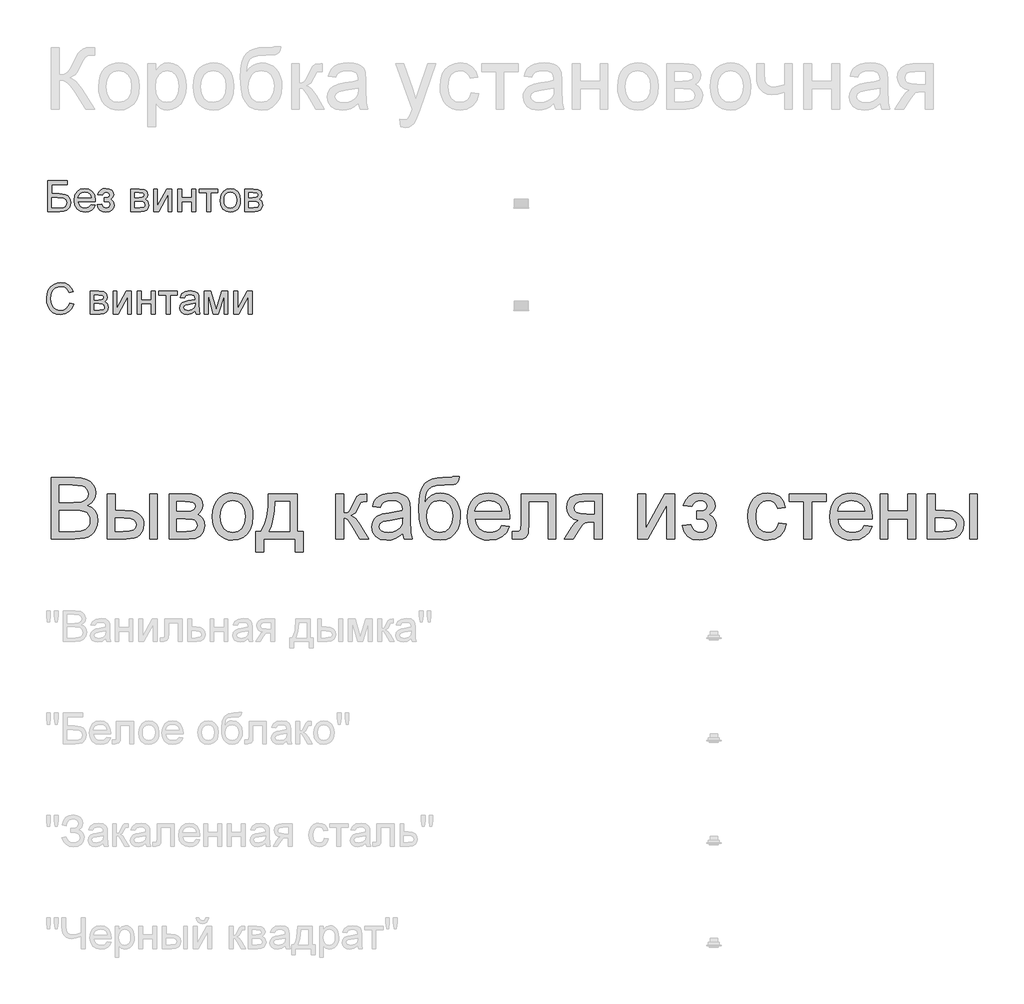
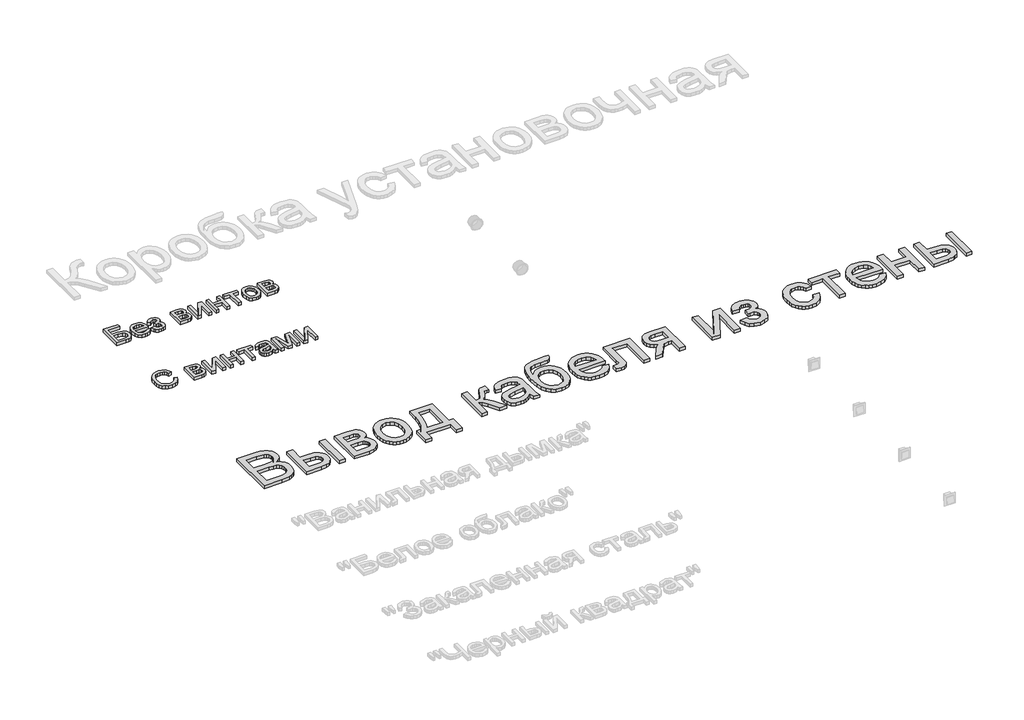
# One storey, part 100 of 168: 3 proxies.
"""IFC4 building model written with IfcOpenShell, lengths in millimetres."""

from ifc_helpers import new_model, si_unit, origin, origin_with_axes, place, context, project, spatial, polyline, outline, extrude, element, save

model = new_model("IFC4")

# Units and contexts
model_context = context("Model", 3, world=origin())
ifc_project = project(units=[si_unit("LENGTHUNIT", "METRE", prefix="MILLI")], contexts=[model_context])

# Site, building, storey
site = spatial("IfcSite", under=ifc_project)
building = spatial("IfcBuilding", under=site)
storey = spatial("IfcBuildingStorey", under=building, Name="Этаж 01", Elevation=0.0)

# Proxies
placement = place(None, origin())
element("IfcBuildingElementProxy", 1, Name="300 мм Arial 2", ObjectType="300 мм Arial 2", at=placement, inside=storey, context=model_context, shape_type="SweptSolid", body=[
    extrude(outline(polyline([(32899.0945017, -22448.4056816), (32899.0945017, -22147.0367511), (33014.0944134, -22147.0367511), (33045.7230679, -22149.2532401), (33070.4171468, -22155.9027072), (33089.3446755, -22167.1506992), (33103.6736792, -22183.162763), (33112.6959851, -22201.9983212), (33115.7034204, -22221.7167961), (33113.1742317, -22239.8625756), (33105.5866656, -22256.9231031), (33092.8855397, -22271.849915), (33075.0156718, -22283.5945477), (33096.3620245, -22294.7413722), (33112.1349651, -22311.7007322), (33121.8746409, -22333.3505876), (33125.1211995, -22358.5688983), (33122.9047105, -22379.5841573), (33116.2552434, -22399.072706), (33106.3316266, -22415.6457899), (33094.2926883, -22427.9146544), (33079.5498173, -22436.7990046), (33061.5144025, -22443.2185454), (33013.2114966, -22448.4056816), (32899.0945017, -22448.4056816)]), holes=[polyline([(32936.765618, -22269.4678791), (33005.5595511, -22269.4678791), (33045.7322649, -22266.2305176), (33059.7945542, -22260.6479083), (33069.902112, -22252.2877899), (33075.9997561, -22241.2789212), (33078.0323041, -22227.7500609), (33076.1377118, -22214.6166736), (33070.453935, -22203.1755436), (33061.238491, -22194.2452082), (33048.7488973, -22188.6442048), (33000.3356267, -22184.7078674), (32936.765618, -22184.7078674), (32936.765618, -22269.4678791)]), polyline([(32936.765618, -22410.7345653), (33014.020837, -22410.7345653), (33041.9798686, -22409.2630373), (33065.6346809, -22401.0592688), (33081.3064539, -22384.320638), (33085.9141759, -22372.4932319), (33087.4500832, -22358.9367803), (33085.6474614, -22343.1914309), (33080.2395961, -22329.6533735), (33070.7942259, -22319.0675691), (33056.8790894, -22312.1789788), (33037.1698115, -22308.3989913), (33010.342017, -22307.1389954), (32936.765618, -22307.1389954), (32936.765618, -22410.7345653)])]), origin_with_axes(), (0.0, 0.0, 1.0), 20.0),
    extrude(outline(polyline([(33379.4012346, -22227.0878733), (33417.0723509, -22227.0878733), (33417.0723509, -22448.4056816), (33379.4012346, -22448.4056816), (33379.4012346, -22227.0878733)])), origin_with_axes(), (0.0, 0.0, 1.0), 20.0),
    extrude(outline(polyline([(33172.2100949, -22227.0878733), (33209.8812112, -22227.0878733), (33209.8812112, -22307.1389954), (33256.4550718, -22307.1389954), (33296.7105591, -22311.857082), (33312.9272573, -22317.7546902), (33326.5365919, -22326.0113418), (33337.304038, -22336.3419281), (33344.995071, -22348.4613405), (33349.6096907, -22362.3695792), (33351.1478973, -22378.0666441), (33345.9883523, -22405.0231973), (33330.5097174, -22427.7675016), (33318.6478223, -22436.7967054), (33303.700317, -22443.2461366), (33264.5484757, -22448.4056816), (33172.2100949, -22448.4056816), (33172.2100949, -22227.0878733)]), holes=[polyline([(33209.8812112, -22410.7345653), (33248.5823971, -22410.7345653), (33278.5831738, -22408.7571995), (33298.540772, -22402.8251024), (33309.7427788, -22392.6991504), (33313.476781, -22378.1402205), (33310.708469, -22365.8345678), (33302.403533, -22354.9636548), (33284.6440297, -22347.3484975), (33253.5120158, -22344.8101117), (33209.8812112, -22344.8101117), (33209.8812112, -22410.7345653)])]), origin_with_axes(), (0.0, 0.0, 1.0), 20.0),
    extrude(outline(polyline([(33473.5790253, -22227.0878733), (33556.5732034, -22227.0878733), (33583.2538451, -22228.3478691), (33602.0802062, -22232.1278566), (33615.9309634, -22239.2647673), (33627.6847931, -22250.5955328), (33635.7138177, -22265.3567978), (33638.3901592, -22282.7852073), (33636.7714784, -22296.8291025), (33631.915436, -22308.9416172), (33623.8036381, -22319.1779337), (33612.4176903, -22327.5932344), (33626.3604179, -22335.4199238), (33637.7279716, -22348.0106851), (33645.2879466, -22364.3722368), (33647.8079382, -22383.5112976), (33641.4251856, -22412.2244873), (33626.2500533, -22432.439603), (33602.227359, -22444.4141619), (33569.3019205, -22448.4056816), (33473.5790253, -22448.4056816), (33473.5790253, -22227.0878733)]), holes=[polyline([(33511.2501416, -22311.847885), (33548.4797995, -22311.847885), (33579.1979461, -22309.9348986), (33594.1339551, -22302.2829531), (33599.0727709, -22295.9553828), (33600.7190429, -22288.4505901), (33597.8311692, -22277.2117951), (33589.1675482, -22269.9829139), (33573.5141693, -22266.0649707), (33549.6570219, -22264.7589896), (33511.2501416, -22264.7589896), (33511.2501416, -22311.847885)]), polyline([(33511.2501416, -22410.7345653), (33557.4561202, -22410.7345653), (33582.6376428, -22409.033111), (33598.4381745, -22403.9287484), (33606.9178545, -22394.648925), (33610.1368219, -22380.4210889), (33608.5273382, -22370.9941127), (33603.698887, -22362.2845065), (33596.2860648, -22355.4694925), (33586.923468, -22351.7262932), (33553.7773003, -22349.5190013), (33511.2501416, -22349.5190013), (33511.2501416, -22410.7345653)])]), origin_with_axes(), (0.0, 0.0, 1.0), 20.0),
    extrude(outline(polyline([(33685.4790545, -22337.7467774), (33687.5162011, -22309.0841715), (33693.6276407, -22284.385494), (33703.8133735, -22263.6507451), (33718.0733993, -22246.8799246), (33732.4299942, -22236.160763), (33748.2765111, -22228.504219), (33765.6129501, -22223.9102925), (33784.4393113, -22222.3789837), (33805.2223447, -22224.2436856), (33824.0142169, -22229.8377912), (33840.8149277, -22239.1613005), (33855.6244773, -22252.2142135), (33867.7117001, -22268.5550719), (33876.3454307, -22287.7424172), (33881.525669, -22309.7762495), (33883.2524152, -22334.6565687), (33880.1989946, -22372.7139611), (33871.0387329, -22401.6846682), (33856.0383446, -22423.3805088), (33835.464544, -22439.6133019), (33811.0279825, -22449.7392538), (33784.4393113, -22453.1145711), (33763.3527751, -22451.256767), (33744.386159, -22445.6833548), (33727.5394629, -22436.3943344), (33712.8126868, -22423.3897059), (33700.8542227, -22406.8901984), (33692.3124626, -22387.1165412), (33687.1874066, -22364.0687342), (33685.4790545, -22337.7467774)]), holes=[polyline([(33723.1501709, -22337.673201), (33727.5095725, -22371.7666649), (33740.5877774, -22396.0560737), (33760.2694642, -22410.5966095), (33784.4393113, -22415.4434548), (33808.4987937, -22410.5690184), (33828.1436923, -22395.9457091), (33841.2218972, -22371.3344036), (33845.5812988, -22336.4959786), (33841.1943061, -22303.3957961), (33828.0333277, -22279.4374812), (33808.360838, -22264.8969453), (33784.4393113, -22260.0501), (33760.2694642, -22264.8785512), (33740.5877774, -22279.3639048), (33727.5095725, -22303.5981312), (33723.1501709, -22337.673201)])]), origin_with_axes(), (0.0, 0.0, 1.0), 20.0),
    extrude(outline(polyline([(33958.5946478, -22227.0878733), (34099.8613339, -22227.0878733), (34099.8613339, -22410.7345653), (34128.1146711, -22410.7345653), (34128.1146711, -22509.6212456), (34090.4435548, -22509.6212456), (34090.4435548, -22448.4056816), (33935.0502001, -22448.4056816), (33935.0502001, -22509.6212456), (33897.3790838, -22509.6212456), (33897.3790838, -22410.7345653), (33920.9235315, -22410.7345653), (33938.0392413, -22379.8048865), (33950.0229973, -22338.8872116), (33956.8747994, -22287.9815405), (33958.5946478, -22227.0878733)]), holes=[polyline([(33991.5568745, -22264.7589896), (33988.4666658, -22310.8821947), (33982.7277067, -22350.5858591), (33974.3399972, -22383.8699826), (33963.3035373, -22410.7345653), (34062.1902176, -22410.7345653), (34062.1902176, -22264.7589896), (33991.5568745, -22264.7589896)])]), origin_with_axes(), (0.0, 0.0, 1.0), 20.0),
    extrude(outline(polyline([(34288.2169154, -22227.0878733), (34325.8880318, -22227.0878733), (34325.8880318, -22321.265664), (34341.2103169, -22319.5734069), (34351.1247366, -22314.4966353), (34359.8987222, -22301.2528835), (34371.7997047, -22275.0596854), (34388.9797939, -22241.0306009), (34404.1365321, -22229.9573528), (34431.6908936, -22227.0878733), (34438.9013807, -22227.0878733), (34438.9013807, -22264.9797188), (34428.7478376, -22264.7589896), (34410.3537378, -22268.7321151), (34397.4042916, -22293.5273616), (34382.2107652, -22320.345959), (34360.9103977, -22333.4793463), (34372.8481684, -22338.7814455), (34384.6755746, -22348.1394438), (34407.9992931, -22379.0231373), (34448.3191597, -22448.4056816), (34405.4976955, -22448.4056816), (34365.9871692, -22380.4946653), (34346.1215415, -22351.7630814), (34336.8325211, -22346.5483542), (34325.8880318, -22344.8101117), (34325.8880318, -22448.4056816), (34288.2169154, -22448.4056816), (34288.2169154, -22227.0878733)])), origin_with_axes(), (0.0, 0.0, 1.0), 20.0),
    extrude(outline(polyline([(34613.1302936, -22420.1523443), (34595.131667, -22435.584994), (34576.5996115, -22445.6833548), (34557.1110628, -22451.256767), (34536.2429566, -22453.1145711), (34504.7614549, -22448.6448049), (34481.5389039, -22435.2355061), (34467.2190972, -22414.8732377), (34462.4458284, -22389.5445623), (34464.2484501, -22373.9279716), (34469.6563155, -22359.7461207), (34477.9980397, -22347.6060149), (34488.6022382, -22338.1146594), (34514.9793773, -22325.7538244), (34547.573722, -22320.0884417), (34586.0909669, -22314.1287533), (34612.9095644, -22307.1389954), (34613.1302936, -22298.7512859), (34610.5367255, -22281.9390788), (34602.7560213, -22270.9394071), (34585.3552029, -22262.7724268), (34561.1117795, -22260.0501), (34538.6709778, -22261.8619189), (34522.9992048, -22267.2973753), (34512.3122328, -22277.3497509), (34504.8258342, -22293.0123268), (34467.1547179, -22288.3034373), (34473.6938204, -22267.7020455), (34483.4518903, -22251.5152378), (34497.3394356, -22239.1360086), (34516.2669643, -22229.9573528), (34539.4159388, -22224.273576), (34565.9678218, -22222.3789837), (34591.4344529, -22224.0528468), (34611.6219774, -22229.074436), (34626.843095, -22236.625214), (34637.4105053, -22245.8866432), (34644.4186573, -22257.3369703), (34648.9619999, -22271.4544419), (34650.8014099, -22304.4166687), (34650.8014099, -22351.2848348), (34652.7143963, -22416.7310418), (34660.219189, -22448.4056816), (34622.5480727, -22448.4056816), (34613.1302936, -22420.1523443)]), holes=[polyline([(34613.1302936, -22344.8101117), (34552.356188, -22356.3616064), (34519.9457842, -22362.4684475), (34505.2672926, -22372.4012614), (34500.1169447, -22386.895812), (34502.9220449, -22398.0978187), (34511.3373455, -22407.2764745), (34525.1789056, -22413.4017097), (34544.2627841, -22415.4434548), (34564.4962938, -22413.1901776), (34582.3753588, -22406.4303459), (34596.8699094, -22396.4699409), (34606.9498761, -22384.6149436), (34611.4196423, -22372.4012614), (34612.9095644, -22355.4786896), (34613.1302936, -22344.8101117)])]), origin_with_axes(), (0.0, 0.0, 1.0), 20.0),
    extrude(outline(polyline([(34857.9925496, -22142.3278616), (34890.9547763, -22142.3278616), (34887.386321, -22160.2345177), (34881.2426917, -22171.721633), (34872.7262235, -22178.5182529), (34862.0392515, -22182.3534227), (34815.9068493, -22184.7078674), (34777.6011366, -22186.8783712), (34753.7715803, -22193.3898825), (34739.516153, -22204.6838598), (34729.9328271, -22221.2017613), (34724.2950355, -22243.072346), (34721.8762114, -22270.4243723), (34737.0237525, -22249.3815222), (34754.5073443, -22234.3719368), (34774.3453809, -22225.377222), (34796.5562564, -22222.3789837), (34817.0794732, -22224.2850723), (34835.754083, -22230.0033381), (34852.5800857, -22239.533781), (34867.5574814, -22252.8764011), (34879.8539371, -22269.4701784), (34888.6371198, -22288.7540927), (34893.9070294, -22310.7281441), (34895.6636659, -22335.3923327), (34892.177984, -22371.3527977), (34881.7209383, -22400.2131402), (34866.4814266, -22422.6447449), (34848.6483469, -22439.3189963), (34826.0603924, -22449.6656774), (34796.5562564, -22453.1145711), (34762.554763, -22448.672396), (34737.0697378, -22435.3458707), (34718.3169531, -22415.0939669), (34704.5121812, -22389.8756561), (34696.0141071, -22351.9010372), (34693.1814157, -22293.3802088), (34694.9679427, -22253.7156319), (34700.3275235, -22221.1005938), (34709.2601582, -22195.5350944), (34721.7658468, -22177.0191337), (34737.9779464, -22163.9018413), (34758.0298144, -22154.5323468), (34781.9214508, -22148.91065), (34809.6528554, -22147.0367511), (34851.5914029, -22146.1906225), (34857.9925496, -22142.3278616)]), holes=[polyline([(34857.9925496, -22334.2151103), (34853.9090594, -22304.5730185), (34841.658589, -22280.8354328), (34821.9769022, -22265.2464332), (34795.5997632, -22260.0501), (34768.1005841, -22265.5407388), (34757.0135404, -22272.4040373), (34747.7015274, -22282.0126552), (34735.0647809, -22307.6632273), (34730.852532, -22340.6898334), (34735.5062393, -22372.704764), (34749.467361, -22396.2032265), (34770.2526937, -22410.6333977), (34795.379034, -22415.4434548), (34820.634133, -22409.8792396), (34840.6285194, -22393.1865941), (34853.651542, -22367.3152928), (34857.9925496, -22334.2151103)])]), origin_with_axes(), (0.0, 0.0, 1.0), 20.0),
    extrude(outline(polyline([(35097.7044576, -22382.481228), (35134.6398099, -22387.1901176), (35121.3316788, -22415.0203905), (35100.0956906, -22435.8241173), (35071.410092, -22448.7919577), (35035.7531296, -22453.1145711), (35012.3788274, -22451.2498692), (34991.5521079, -22445.6557637), (34973.2729713, -22436.3322543), (34957.5414175, -22423.2793413), (34944.8908754, -22406.860308), (34935.8547739, -22387.4384379), (34930.433113, -22365.013731), (34928.6258926, -22339.5861874), (34930.4515071, -22313.2964203), (34935.9283503, -22290.1244531), (34945.0564223, -22270.0702859), (34957.8357231, -22253.1339185), (34973.5258902, -22239.6786346), (34991.386561, -22230.0677174), (35011.4177357, -22224.3011672), (35033.6194141, -22222.3789837), (35055.1060219, -22224.2965686), (35074.537089, -22230.0493233), (35091.9126155, -22239.6372478), (35107.2326013, -22253.0603421), (35119.7382899, -22269.9599213), (35128.6709246, -22289.9773003), (35134.0305054, -22313.1124793), (35135.8170323, -22339.3654582), (35135.5963031, -22349.5190013), (34966.297009, -22349.5190013), (34972.8177173, -22377.7171562), (34987.9652585, -22398.4473066), (35009.826646, -22411.1944178), (35036.4888936, -22415.4434548), (35056.5384624, -22413.4752861), (35073.424246, -22407.5707801), (35087.1462444, -22397.3620547), (35097.7044576, -22382.481228)]), holes=[polyline([(34966.297009, -22311.847885), (35098.145916, -22311.847885), (35093.0507504, -22291.945469), (35083.0627542, -22277.7084358), (35061.1001991, -22264.464684), (35033.4722613, -22260.0501), (35008.0792066, -22263.5725701), (34987.0823417, -22274.1399805), (34972.4866235, -22290.6118968), (34966.297009, -22311.847885)])]), origin_with_axes(), (0.0, 0.0, 1.0), 20.0),
    extrude(outline(polyline([(35192.3237068, -22227.0878733), (35361.8437302, -22227.0878733), (35361.8437302, -22448.1849524), (35324.1726139, -22448.1849524), (35324.1726139, -22264.7589896), (35229.9948231, -22264.7589896), (35229.9948231, -22370.3411222), (35227.4564373, -22419.0486984), (35222.7015625, -22430.0759612), (35213.5137097, -22439.6133019), (35199.5709821, -22446.2075866), (35180.5514829, -22448.4056816), (35149.9437009, -22446.4926952), (35149.9437009, -22410.7345653), (35166.7926963, -22410.7345653), (35183.8256327, -22408.4169087), (35190.6314496, -22401.0592688), (35192.3237068, -22368.2074066), (35192.3237068, -22227.0878733)])), origin_with_axes(), (0.0, 0.0, 1.0), 20.0),
    extrude(outline(polyline([(35587.870428, -22227.0878733), (35587.870428, -22448.4056816), (35550.1993117, -22448.4056816), (35550.1993117, -22363.6456699), (35529.6714964, -22363.6456699), (35501.7124647, -22368.4281358), (35490.5472462, -22378.8575904), (35475.4456903, -22400.5810222), (35445.4265195, -22448.4056816), (35401.8692912, -22448.4056816), (35439.6875603, -22387.9258816), (35456.3894029, -22366.2208438), (35471.7668703, -22356.5823356), (35446.0151307, -22348.6912668), (35427.9153365, -22333.7000755), (35417.2099704, -22313.7608713), (35413.6415151, -22291.025764), (35418.5159515, -22265.2372362), (35433.1392608, -22244.8197854), (35456.9964082, -22231.5208513), (35489.5723589, -22227.0878733), (35587.870428, -22227.0878733)]), holes=[polyline([(35550.1993117, -22264.7589896), (35500.5352424, -22264.7589896), (35474.8846702, -22266.9386904), (35460.3257403, -22273.4777929), (35453.5659086, -22282.9415572), (35451.3126314, -22293.8952436), (35454.6327664, -22308.2518385), (35464.5931714, -22318.2122435), (35482.9964682, -22324.033976), (35511.6452786, -22325.9745536), (35550.1993117, -22325.9745536), (35550.1993117, -22264.7589896)])]), origin_with_axes(), (0.0, 0.0, 1.0), 20.0),
    extrude(outline(polyline([(35762.0993409, -22227.0878733), (35799.7704572, -22227.0878733), (35799.7704572, -22395.8721327), (35892.3295672, -22227.0878733), (35941.0371434, -22227.0878733), (35941.0371434, -22448.4056816), (35903.3660271, -22448.4056816), (35903.3660271, -22280.6514918), (35811.3955283, -22448.4056816), (35762.0993409, -22448.4056816), (35762.0993409, -22227.0878733)])), origin_with_axes(), (0.0, 0.0, 1.0), 20.0),
    extrude(outline(polyline([(36049.3416028, -22349.5190013), (36049.3416028, -22311.847885), (36079.066468, -22310.376357), (36094.0760534, -22302.5404705), (36099.3735541, -22295.1920276), (36101.1393877, -22286.1697217), (36098.7757459, -22275.4551586), (36091.6848204, -22267.1502225), (36080.8598927, -22261.8251307), (36067.2942441, -22260.0501), (36053.5814428, -22261.8159336), (36042.0943275, -22267.1134343), (36032.8328982, -22275.9426022), (36025.7971551, -22288.3034373), (35983.4171492, -22283.5945477), (35994.6559442, -22256.8127385), (36011.7440628, -22237.6828747), (36034.6815052, -22226.2049565), (36063.4682714, -22222.3789837), (36094.9589702, -22227.041888), (36118.7977234, -22241.0306009), (36133.8073088, -22261.4940369), (36138.810504, -22285.5811105), (36137.0308748, -22297.9419455), (36131.6919874, -22308.9784054), (36122.7938416, -22318.6904901), (36110.3364376, -22327.0781996), (36124.8769734, -22337.5444423), (36135.2420486, -22350.5490709), (36141.4500573, -22366.1288733), (36143.5193935, -22384.320638), (36138.267878, -22412.0497434), (36122.5133316, -22434.0214956), (36097.322612, -22448.3413022), (36063.762577, -22453.1145711), (36030.9383059, -22448.6999872), (36005.8211627, -22435.4562353), (35988.4111473, -22413.3833156), (35978.7082597, -22382.481228), (36021.0882655, -22377.7723385), (36027.4342299, -22393.7016289), (36038.0844137, -22405.5842173), (36051.8064121, -22412.9786454), (36067.3678205, -22415.4434548), (36082.5245587, -22413.079813), (36094.8853938, -22405.9888875), (36103.1075564, -22395.2191421), (36105.8482772, -22381.8190404), (36104.146823, -22371.2056449), (36099.0424603, -22362.0269891), (36084.5479097, -22351.4319876), (36056.6992427, -22349.2982721), (36049.3416028, -22349.5190013)])), origin_with_axes(), (0.0, 0.0, 1.0), 20.0),
    extrude(outline(polyline([(36449.5972135, -22368.3545594), (36487.2683298, -22373.063449), (36476.7652989, -22406.5683017), (36457.0284298, -22431.88778), (36429.9155268, -22447.8078733), (36397.2843938, -22453.1145711), (36376.156471, -22451.2636648), (36357.2128475, -22445.710946), (36340.4535233, -22436.4564145), (36325.8784985, -22423.5000705), (36314.0809828, -22407.0856357), (36305.6541858, -22387.456832), (36300.5981077, -22364.6136594), (36298.9127483, -22338.5561178), (36301.7914249, -22305.032871), (36310.4274547, -22275.9793904), (36324.9587935, -22252.5177162), (36345.5233971, -22235.7698884), (36370.1255055, -22225.7267099), (36396.769359, -22222.3789837), (36428.6003486, -22226.9775087), (36454.0485856, -22240.7730835), (36472.3047297, -22263.0299442), (36482.5594403, -22293.0123268), (36444.888324, -22297.7212163), (36438.0549159, -22281.2860882), (36427.4139292, -22269.5046673), (36413.553975, -22262.4137419), (36397.0636646, -22260.0501), (36372.7190736, -22264.7038073), (36353.3960718, -22278.664929), (36340.7869164, -22302.6876233), (36336.5838646, -22337.5260482), (36340.6949459, -22372.8335227), (36353.0281898, -22396.9389904), (36372.0017037, -22410.8173387), (36396.033595, -22415.4434548), (36415.5405378, -22412.5555811), (36431.5342075, -22403.8919602), (36443.1684756, -22389.2318626), (36449.5972135, -22368.3545594)])), origin_with_axes(), (0.0, 0.0, 1.0), 20.0),
    extrude(outline(polyline([(36501.3949984, -22227.0878733), (36680.3328009, -22227.0878733), (36680.3328009, -22264.7589896), (36609.6994578, -22264.7589896), (36609.6994578, -22448.4056816), (36572.0283415, -22448.4056816), (36572.0283415, -22264.7589896), (36501.3949984, -22264.7589896), (36501.3949984, -22227.0878733)])), origin_with_axes(), (0.0, 0.0, 1.0), 20.0),
    extrude(outline(polyline([(36868.246924, -22382.481228), (36905.1822763, -22387.1901176), (36891.8741452, -22415.0203905), (36870.638157, -22435.8241173), (36841.9525584, -22448.7919577), (36806.295596, -22453.1145711), (36782.9212938, -22451.2498692), (36762.0945743, -22445.6557637), (36743.8154377, -22436.3322543), (36728.0838839, -22423.2793413), (36715.4333417, -22406.860308), (36706.3972402, -22387.4384379), (36700.9755793, -22365.013731), (36699.168359, -22339.5861874), (36700.9939734, -22313.2964203), (36706.4708166, -22290.1244531), (36715.5988886, -22270.0702859), (36728.3781895, -22253.1339185), (36744.0683565, -22239.6786346), (36761.9290274, -22230.0677174), (36781.9602021, -22224.3011672), (36804.1618805, -22222.3789837), (36825.6484882, -22224.2965686), (36845.0795554, -22230.0493233), (36862.4550819, -22239.6372478), (36877.7750677, -22253.0603421), (36890.2807563, -22269.9599213), (36899.213391, -22289.9773003), (36904.5729718, -22313.1124793), (36906.3594987, -22339.3654582), (36906.1387695, -22349.5190013), (36736.8394753, -22349.5190013), (36743.3601837, -22377.7171562), (36758.5077249, -22398.4473066), (36780.3691124, -22411.1944178), (36807.03136, -22415.4434548), (36827.0809288, -22413.4752861), (36843.9667123, -22407.5707801), (36857.6887108, -22397.3620547), (36868.246924, -22382.481228)]), holes=[polyline([(36736.8394753, -22311.847885), (36868.6883824, -22311.847885), (36863.5932168, -22291.945469), (36853.6052206, -22277.7084358), (36831.6426655, -22264.464684), (36804.0147277, -22260.0501), (36778.6216729, -22263.5725701), (36757.6248081, -22274.1399805), (36743.0290899, -22290.6118968), (36736.8394753, -22311.847885)])]), origin_with_axes(), (0.0, 0.0, 1.0), 20.0),
    extrude(outline(polyline([(36944.030615, -22227.0878733), (36981.7017313, -22227.0878733), (36981.7017313, -22311.847885), (37080.5884116, -22311.847885), (37080.5884116, -22227.0878733), (37118.2595279, -22227.0878733), (37118.2595279, -22448.4056816), (37080.5884116, -22448.4056816), (37080.5884116, -22349.5190013), (36981.7017313, -22349.5190013), (36981.7017313, -22448.4056816), (36944.030615, -22448.4056816), (36944.030615, -22227.0878733)])), origin_with_axes(), (0.0, 0.0, 1.0), 20.0),
    extrude(outline(polyline([(37381.9573421, -22227.0878733), (37419.6284584, -22227.0878733), (37419.6284584, -22448.4056816), (37381.9573421, -22448.4056816), (37381.9573421, -22227.0878733)])), origin_with_axes(), (0.0, 0.0, 1.0), 20.0),
    extrude(outline(polyline([(37174.7662024, -22227.0878733), (37212.4373187, -22227.0878733), (37212.4373187, -22307.1389954), (37259.0111793, -22307.1389954), (37299.2666666, -22311.857082), (37315.4833648, -22317.7546902), (37329.0926994, -22326.0113418), (37339.8601455, -22336.3419281), (37347.5511785, -22348.4613405), (37352.1657983, -22362.3695792), (37353.7040049, -22378.0666441), (37348.5444599, -22405.0231973), (37333.0658249, -22427.7675016), (37321.2039298, -22436.7967054), (37306.2564245, -22443.2461366), (37267.1045832, -22448.4056816), (37174.7662024, -22448.4056816), (37174.7662024, -22227.0878733)]), holes=[polyline([(37212.4373187, -22410.7345653), (37251.1385046, -22410.7345653), (37281.1392813, -22408.7571995), (37301.0968795, -22402.8251024), (37312.2988863, -22392.6991504), (37316.0328885, -22378.1402205), (37313.2645765, -22365.8345678), (37304.9596405, -22354.9636548), (37287.2001372, -22347.3484975), (37256.0681233, -22344.8101117), (37212.4373187, -22344.8101117), (37212.4373187, -22410.7345653)])]), origin_with_axes(), (0.0, 0.0, 1.0), 20.0),
])
element("IfcBuildingElementProxy", 2, Name="150", ObjectType="150", at=placement, inside=storey, context=model_context, shape_type="SweptSolid", body=[
    extrude(outline(polyline([(32882.6133883, -20697.7212163), (32976.791179, -20697.7212163), (32976.791179, -20716.5567745), (32901.4489464, -20716.5567745), (32901.4489464, -20761.2912251), (32936.7288298, -20761.2912251), (32967.8148584, -20765.1171979), (32978.2167218, -20770.6446248), (32986.3193227, -20779.5749603), (32991.53405, -20791.0712726), (32993.2722924, -20804.2966303), (32988.3242796, -20825.7625448), (32973.5538175, -20842.0781113), (32960.2824745, -20846.823789), (32940.1133441, -20848.4056816), (32882.6133883, -20848.4056816), (32882.6133883, -20697.7212163)]), holes=[polyline([(32901.4489464, -20829.5701234), (32941.8056013, -20829.5701234), (32956.0702257, -20828.015822), (32966.269754, -20823.3529177), (32972.3949892, -20815.5814105), (32974.4367343, -20804.7013005), (32969.7646329, -20789.9492325), (32956.7600044, -20782.0765578), (32928.3779085, -20780.1267833), (32901.4489464, -20780.1267833), (32901.4489464, -20829.5701234)])]), origin_with_axes(), (0.0, 0.0, 1.0), 20.0),
    extrude(outline(polyline([(33094.2926883, -20815.4434548), (33112.7603645, -20817.7978996), (33106.1062989, -20831.713036), (33095.4883048, -20842.1148995), (33081.1455055, -20848.5988196), (33063.3170243, -20850.7601263), (33041.2165134, -20847.0307226), (33024.2111682, -20835.8425114), (33013.3678464, -20817.9220597), (33009.7534058, -20793.9959345), (33013.4046346, -20769.2650674), (33024.358321, -20750.7698), (33041.13374, -20739.2366995), (33062.2501665, -20735.3923327), (33082.709004, -20739.2275025), (33099.0567601, -20750.7330118), (33109.7759218, -20769.191491), (33113.3489756, -20793.8855699), (33113.2386111, -20798.9623414), (33028.588964, -20798.9623414), (33031.8493181, -20813.0614189), (33039.4230887, -20823.4264941), (33050.3537825, -20829.8000497), (33063.6849063, -20831.9245682), (33082.1525825, -20827.9882308), (33094.2926883, -20815.4434548)]), holes=[polyline([(33028.588964, -20780.1267833), (33094.5134175, -20780.1267833), (33091.9658347, -20770.1755753), (33086.9718366, -20763.0570587), (33075.990559, -20756.4351828), (33062.1765901, -20754.2278908), (33049.4800628, -20755.9891259), (33038.9816303, -20761.272831), (33031.6837712, -20769.5087892), (33028.588964, -20780.1267833)])]), origin_with_axes(), (0.0, 0.0, 1.0), 20.0),
    extrude(outline(polyline([(33158.0834263, -20798.9623414), (33158.0834263, -20780.1267833), (33172.9458589, -20779.3910193), (33180.4506516, -20775.473076), (33183.9823187, -20767.2877016), (33179.2550351, -20757.7779521), (33167.0597469, -20754.2278908), (33154.4597886, -20757.759558), (33146.3112024, -20768.3545594), (33125.1211995, -20766.0001146), (33130.740597, -20752.60921), (33139.2846563, -20743.0442782), (33150.7533775, -20737.305319), (33165.1467606, -20735.3923327), (33180.89211, -20737.7237848), (33192.8114866, -20744.7181412), (33200.3162793, -20754.9498592), (33202.8178769, -20766.993396), (33199.2586186, -20778.6920435), (33188.5808437, -20787.7419406), (33201.0336492, -20799.4773762), (33205.1723216, -20816.3631598), (33202.5465639, -20830.2277125), (33194.6692907, -20841.2135886), (33182.0739309, -20848.3734919), (33165.2939134, -20850.7601263), (33148.8817779, -20848.5528344), (33136.3232062, -20841.9309585), (33127.6181985, -20830.8944986), (33122.7667547, -20815.4434548), (33143.9567576, -20813.08901), (33152.4548317, -20826.9949494), (33167.0965351, -20831.9245682), (33180.8553218, -20827.1972845), (33186.3367635, -20815.112361), (33182.933855, -20805.2163353), (33175.6865797, -20799.9188346), (33161.7622462, -20798.8519768), (33158.0834263, -20798.9623414)])), origin_with_axes(), (0.0, 0.0, 1.0), 20.0),
    extrude(outline(polyline([(33287.5778886, -20737.7467774), (33329.0749776, -20737.7467774), (33351.828479, -20740.2667691), (33364.6307725, -20749.5006072), (33369.9834555, -20765.5954445), (33366.7460939, -20778.6736494), (33356.9972211, -20787.999458), (33369.6523617, -20798.2081833), (33374.692345, -20815.9584896), (33371.5009687, -20830.3150845), (33363.9134026, -20840.4226423), (33351.9020554, -20846.4099217), (33335.4393361, -20848.4056816), (33287.5778886, -20848.4056816), (33287.5778886, -20737.7467774)]), holes=[polyline([(33306.4134467, -20780.1267833), (33325.0282757, -20780.1267833), (33340.387349, -20779.1702901), (33347.8553535, -20775.3443173), (33351.1478973, -20768.4281358), (33349.7039605, -20762.8087383), (33345.37215, -20759.1942977), (33325.6168869, -20756.5823356), (33306.4134467, -20756.5823356), (33306.4134467, -20780.1267833)]), polyline([(33306.4134467, -20829.5701234), (33329.516436, -20829.5701234), (33350.0074631, -20826.167215), (33354.2473031, -20821.5273033), (33355.8567869, -20814.4133852), (33352.6378194, -20805.345094), (33344.2501099, -20800.0659874), (33327.677026, -20798.9623414), (33306.4134467, -20798.9623414), (33306.4134467, -20829.5701234)])]), origin_with_axes(), (0.0, 0.0, 1.0), 20.0),
    extrude(outline(polyline([(33398.2367927, -20737.7467774), (33417.0723509, -20737.7467774), (33417.0723509, -20822.1389071), (33463.3519059, -20737.7467774), (33487.7056939, -20737.7467774), (33487.7056939, -20848.4056816), (33468.8701358, -20848.4056816), (33468.8701358, -20764.5285867), (33422.8848864, -20848.4056816), (33398.2367927, -20848.4056816), (33398.2367927, -20737.7467774)])), origin_with_axes(), (0.0, 0.0, 1.0), 20.0),
    extrude(outline(polyline([(33515.9590312, -20737.7467774), (33534.7945893, -20737.7467774), (33534.7945893, -20780.1267833), (33584.2379295, -20780.1267833), (33584.2379295, -20737.7467774), (33603.0734876, -20737.7467774), (33603.0734876, -20848.4056816), (33584.2379295, -20848.4056816), (33584.2379295, -20798.9623414), (33534.7945893, -20798.9623414), (33534.7945893, -20848.4056816), (33515.9590312, -20848.4056816), (33515.9590312, -20737.7467774)])), origin_with_axes(), (0.0, 0.0, 1.0), 20.0),
    extrude(outline(polyline([(33621.9090458, -20737.7467774), (33711.377947, -20737.7467774), (33711.377947, -20756.5823356), (33676.0612755, -20756.5823356), (33676.0612755, -20848.4056816), (33657.2257173, -20848.4056816), (33657.2257173, -20756.5823356), (33621.9090458, -20756.5823356), (33621.9090458, -20737.7467774)])), origin_with_axes(), (0.0, 0.0, 1.0), 20.0),
    extrude(outline(polyline([(33723.1501709, -20793.0762295), (33727.224464, -20766.3955878), (33739.4473432, -20747.6428031), (33754.5488991, -20738.4549503), (33772.6302992, -20735.3923327), (33792.417752, -20739.1217364), (33808.2228822, -20750.3099476), (33818.5833589, -20768.0740494), (33822.0368512, -20791.5311251), (33820.5101409, -20810.5598213), (33815.93001, -20825.0451749), (33808.4298159, -20835.8930952), (33798.1429156, -20844.0094917), (33785.9246348, -20849.0724677), (33772.6302992, -20850.7601263), (33752.6037231, -20847.0445182), (33736.816987, -20835.8976937), (33726.5668749, -20817.7611114), (33723.1501709, -20793.0762295)]), holes=[polyline([(33741.985729, -20793.0394413), (33744.1654298, -20810.0861732), (33750.7045323, -20822.2308776), (33760.5453757, -20829.5011455), (33772.6302992, -20831.9245682), (33784.6600404, -20829.48735), (33794.4824897, -20822.1756953), (33801.0215922, -20809.8700426), (33803.201293, -20792.4508301), (33801.0077966, -20775.9007388), (33794.4273074, -20763.9215814), (33784.5910626, -20756.6513134), (33772.6302992, -20754.2278908), (33760.5453757, -20756.6421164), (33750.7045323, -20763.8847932), (33744.1654298, -20776.0019064), (33741.985729, -20793.0394413)])]), origin_with_axes(), (0.0, 0.0, 1.0), 20.0),
    extrude(outline(polyline([(33843.2268541, -20737.7467774), (33884.7239431, -20737.7467774), (33907.4774445, -20740.2667691), (33920.279738, -20749.5006072), (33925.632421, -20765.5954445), (33922.3950594, -20778.6736494), (33912.6461866, -20787.999458), (33925.3013272, -20798.2081833), (33930.3413105, -20815.9584896), (33927.1499342, -20830.3150845), (33919.5623681, -20840.4226423), (33907.5510209, -20846.4099217), (33891.0883017, -20848.4056816), (33843.2268541, -20848.4056816), (33843.2268541, -20737.7467774)]), holes=[polyline([(33862.0624122, -20780.1267833), (33880.6772412, -20780.1267833), (33896.0363145, -20779.1702901), (33903.504319, -20775.3443173), (33906.7968628, -20768.4281358), (33905.352926, -20762.8087383), (33901.0211155, -20759.1942977), (33881.2658524, -20756.5823356), (33862.0624122, -20756.5823356), (33862.0624122, -20780.1267833)]), polyline([(33862.0624122, -20829.5701234), (33885.1654015, -20829.5701234), (33905.6564287, -20826.167215), (33909.8962687, -20821.5273033), (33911.5057524, -20814.4133852), (33908.2867849, -20805.345094), (33899.8990754, -20800.0659874), (33883.3259916, -20798.9623414), (33862.0624122, -20798.9623414), (33862.0624122, -20829.5701234)])]), origin_with_axes(), (0.0, 0.0, 1.0), 20.0),
])
element("IfcBuildingElementProxy", 3, Name="150", ObjectType="150", at=placement, inside=storey, context=model_context, shape_type="SweptSolid", body=[
    extrude(outline(polyline([(32988.5634029, -21294.8420631), (33007.398961, -21299.6981054), (32998.7077489, -21321.6468649), (32985.0685239, -21337.6819214), (32967.1526708, -21347.4905751), (32945.631574, -21350.7601263), (32923.7839821, -21348.2861199), (32906.4337475, -21340.8641007), (32893.1348133, -21328.751586), (32883.4411228, -21312.2060932), (32877.5228212, -21292.7543327), (32875.550054, -21271.9230148), (32877.7803386, -21249.9512626), (32884.4711923, -21230.9777487), (32895.2731274, -21215.6048798), (32909.8366559, -21204.4350628), (32927.1087156, -21197.6338444), (32946.0362442, -21195.3667716), (32966.6882197, -21198.3006305), (32983.7625428, -21207.1022072), (32996.7257847, -21221.2288758), (33005.0445163, -21240.1380104), (32986.2089581, -21244.6261707), (32979.6790527, -21230.8903767), (32970.7579143, -21221.4679991), (32959.3351784, -21216.0187471), (32945.3004803, -21214.2023297), (32929.1228695, -21216.2164837), (32915.8331324, -21222.2589454), (32905.7485672, -21231.6951186), (32899.1864722, -21243.8904067), (32894.3856121, -21271.8862266), (32895.8065563, -21289.2870449), (32900.0693889, -21304.3334185), (32907.3350583, -21316.4505318), (32917.7645129, -21325.063569), (32930.2679022, -21330.2093184), (32943.7553759, -21331.9245682), (32959.4777326, -21329.5885175), (32972.5789302, -21322.5803655), (32982.4703573, -21310.9736886), (32988.5634029, -21294.8420631)])), origin_with_axes(), (0.0, 0.0, 1.0), 20.0),
    extrude(outline(polyline([(33089.804528, -21237.7467774), (33131.301617, -21237.7467774), (33154.0551184, -21240.2667691), (33166.8574118, -21249.5006072), (33172.2100949, -21265.5954445), (33168.9727333, -21278.6736494), (33159.2238604, -21287.999458), (33171.8790011, -21298.2081833), (33176.9189844, -21315.9584896), (33173.7276081, -21330.3150845), (33166.140042, -21340.4226423), (33154.1286948, -21346.4099217), (33137.6659755, -21348.4056816), (33089.804528, -21348.4056816), (33089.804528, -21237.7467774)]), holes=[polyline([(33108.6400861, -21280.1267833), (33127.2549151, -21280.1267833), (33142.6139884, -21279.1702901), (33150.0819929, -21275.3443173), (33153.3745367, -21268.4281358), (33151.9305999, -21262.8087383), (33147.5987894, -21259.1942977), (33127.8435263, -21256.5823356), (33108.6400861, -21256.5823356), (33108.6400861, -21280.1267833)]), polyline([(33108.6400861, -21329.5701234), (33131.7430754, -21329.5701234), (33152.2341025, -21326.167215), (33156.4739425, -21321.5273033), (33158.0834263, -21314.4133852), (33154.8644588, -21305.345094), (33146.4767493, -21300.0659874), (33129.9036654, -21298.9623414), (33108.6400861, -21298.9623414), (33108.6400861, -21329.5701234)])]), origin_with_axes(), (0.0, 0.0, 1.0), 20.0),
    extrude(outline(polyline([(33200.4634321, -21237.7467774), (33219.2989903, -21237.7467774), (33219.2989903, -21322.1389071), (33265.5785453, -21237.7467774), (33289.9323333, -21237.7467774), (33289.9323333, -21348.4056816), (33271.0967752, -21348.4056816), (33271.0967752, -21264.5285867), (33225.1115258, -21348.4056816), (33200.4634321, -21348.4056816), (33200.4634321, -21237.7467774)])), origin_with_axes(), (0.0, 0.0, 1.0), 20.0),
    extrude(outline(polyline([(33318.1856706, -21237.7467774), (33337.0212287, -21237.7467774), (33337.0212287, -21280.1267833), (33386.4645689, -21280.1267833), (33386.4645689, -21237.7467774), (33405.300127, -21237.7467774), (33405.300127, -21348.4056816), (33386.4645689, -21348.4056816), (33386.4645689, -21298.9623414), (33337.0212287, -21298.9623414), (33337.0212287, -21348.4056816), (33318.1856706, -21348.4056816), (33318.1856706, -21237.7467774)])), origin_with_axes(), (0.0, 0.0, 1.0), 20.0),
    extrude(outline(polyline([(33424.1356852, -21237.7467774), (33513.6045864, -21237.7467774), (33513.6045864, -21256.5823356), (33478.2879149, -21256.5823356), (33478.2879149, -21348.4056816), (33459.4523567, -21348.4056816), (33459.4523567, -21256.5823356), (33424.1356852, -21256.5823356), (33424.1356852, -21237.7467774)])), origin_with_axes(), (0.0, 0.0, 1.0), 20.0),
    extrude(outline(polyline([(33600.7190429, -21334.279013), (33582.4537018, -21347.0445182), (33562.2753744, -21350.7601263), (33546.5346235, -21348.5252432), (33534.923348, -21341.8205939), (33527.7634447, -21331.6394596), (33525.3768102, -21318.975122), (33528.9820538, -21304.0759012), (33538.4550152, -21293.2601705), (33551.6435847, -21287.079753), (33567.9407571, -21284.2470616), (33600.6086783, -21277.7723385), (33600.7190429, -21273.5784838), (33599.4222588, -21265.1723802), (33595.5319067, -21259.6725443), (33586.8314975, -21255.5890542), (33574.7097858, -21254.2278908), (33555.6534984, -21257.8515285), (33546.5668132, -21270.7090042), (33527.731255, -21268.3545594), (33535.8798412, -21249.9604597), (33552.2873782, -21239.1815172), (33577.137807, -21235.3923327), (33599.9648848, -21238.7400588), (33612.8591487, -21247.1461624), (33618.634896, -21259.9300617), (33619.554601, -21276.4111751), (33619.554601, -21299.8452582), (33620.5110942, -21332.5683617), (33624.2634906, -21348.4056816), (33605.4279324, -21348.4056816), (33600.7190429, -21334.279013)]), holes=[polyline([(33600.7190429, -21296.6078966), (33570.3319901, -21302.383644), (33554.1267882, -21305.4370645), (33546.7875424, -21310.4034715), (33544.2123684, -21317.6507468), (33549.8225688, -21327.841078), (33566.2852881, -21331.9245682), (33585.3415755, -21327.4180137), (33597.6288341, -21316.5103126), (33600.6086783, -21301.9421856), (33600.7190429, -21296.6078966)])]), origin_with_axes(), (0.0, 0.0, 1.0), 20.0),
    extrude(outline(polyline([(33645.4534935, -21237.7467774), (33677.8638972, -21237.7467774), (33702.8430847, -21326.3327619), (33729.7720468, -21237.7467774), (33760.8212872, -21237.7467774), (33760.8212872, -21348.4056816), (33741.985729, -21348.4056816), (33741.985729, -21259.3046623), (33714.9096142, -21348.4056816), (33690.1879441, -21348.4056816), (33664.2890516, -21255.0372312), (33664.2890516, -21348.4056816), (33645.4534935, -21348.4056816), (33645.4534935, -21237.7467774)])), origin_with_axes(), (0.0, 0.0, 1.0), 20.0),
    extrude(outline(polyline([(33789.0746244, -21237.7467774), (33807.9101825, -21237.7467774), (33807.9101825, -21322.1389071), (33854.1897375, -21237.7467774), (33878.5435256, -21237.7467774), (33878.5435256, -21348.4056816), (33859.7079675, -21348.4056816), (33859.7079675, -21264.5285867), (33813.7227181, -21348.4056816), (33789.0746244, -21348.4056816), (33789.0746244, -21237.7467774)])), origin_with_axes(), (0.0, 0.0, 1.0), 20.0),
])

save(model, "model.ifc")
